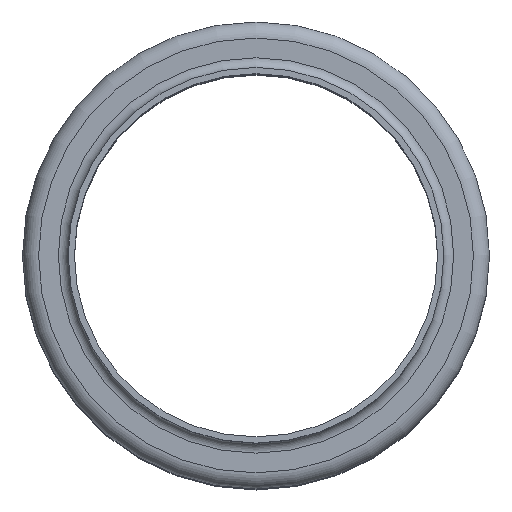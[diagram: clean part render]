
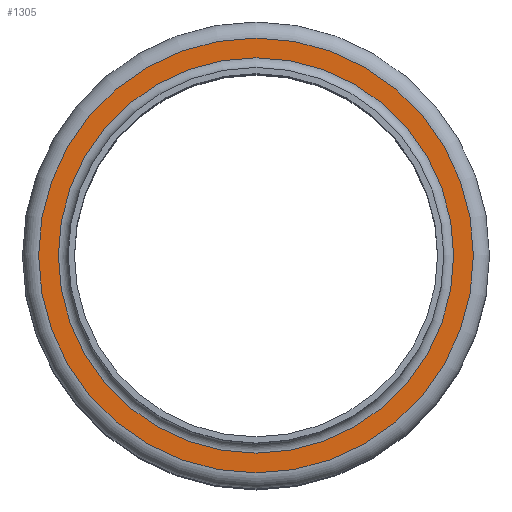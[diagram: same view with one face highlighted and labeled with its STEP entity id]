
A CAD part, top view. The second image highlights one B-rep face of the part: STEP entity #1305.
In plain terms, the highlighted planar face has unit normal (0, 0, 1).
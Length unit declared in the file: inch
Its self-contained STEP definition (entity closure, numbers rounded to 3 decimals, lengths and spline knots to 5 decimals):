
#130=FACE_BOUND('',#384,.T.);
#229=FACE_OUTER_BOUND('',#383,.T.);
#383=EDGE_LOOP('',(#1108));
#384=EDGE_LOOP('',(#1109));
#545=CIRCLE('',#1574,1.905);
#546=CIRCLE('',#1576,2.095);
#658=VERTEX_POINT('',#2470);
#659=VERTEX_POINT('',#2474);
#811=EDGE_CURVE('',#658,#658,#545,.T.);
#812=EDGE_CURVE('',#659,#659,#546,.T.);
#1108=ORIENTED_EDGE('',*,*,#812,.F.);
#1109=ORIENTED_EDGE('',*,*,#811,.T.);
#1206=PLANE('',#1575);
#1305=ADVANCED_FACE('',(#229,#130),#1206,.T.);
#1574=AXIS2_PLACEMENT_3D('',#2472,#2070,#2071);
#1575=AXIS2_PLACEMENT_3D('',#2473,#2072,#2073);
#1576=AXIS2_PLACEMENT_3D('',#2475,#2074,#2075);
#2070=DIRECTION('center_axis',(0.,0.,-1.));
#2071=DIRECTION('ref_axis',(1.,0.,0.));
#2072=DIRECTION('center_axis',(0.,0.,1.));
#2073=DIRECTION('ref_axis',(1.,0.,0.));
#2074=DIRECTION('center_axis',(0.,0.,-1.));
#2075=DIRECTION('ref_axis',(1.,0.,0.));
#2470=CARTESIAN_POINT('',(1.905,0.,-0.095));
#2472=CARTESIAN_POINT('Origin',(0.,0.,-0.095));
#2473=CARTESIAN_POINT('Origin',(0.,2.095,-0.095));
#2474=CARTESIAN_POINT('',(2.095,0.,-0.095));
#2475=CARTESIAN_POINT('Origin',(0.,0.,-0.095));
